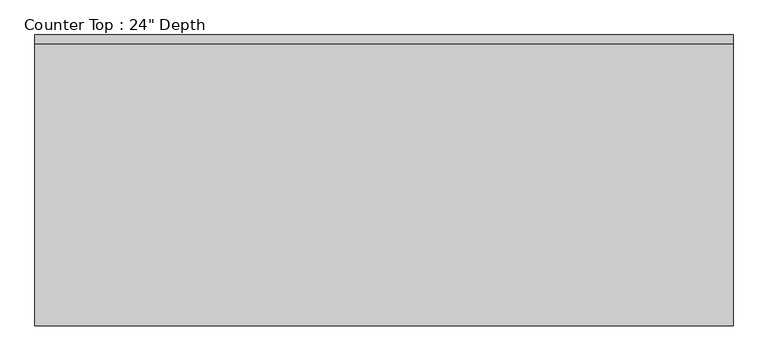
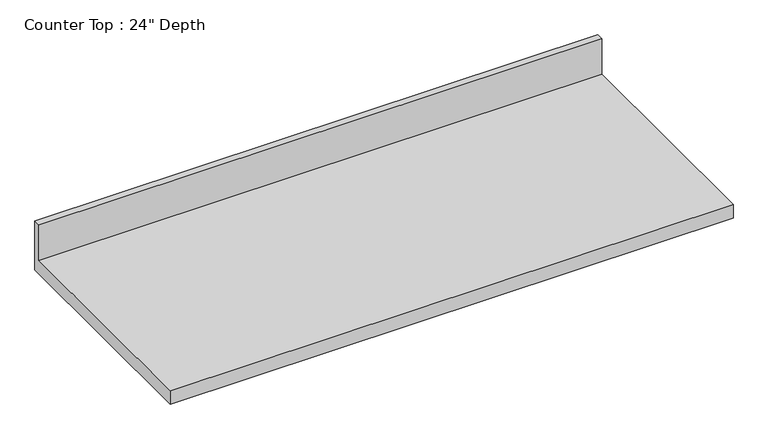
"""IFC4 building model written with IfcOpenShell, lengths in millimetres: furniture geometry."""

from ifc_helpers import new_model, si_unit, frame, origin, place, context, project, spatial, polyline, outline, extrude, source, transform, mapped, element, save


def furniture_b9030999(model_context):
    return source(origin(), model_context, "Body", "SweptSolid", [
        extrude(outline(polyline([(0.0, 1016.0), (0.0, 876.3), (-635.0, 876.3), (-635.0, 914.4), (-19.05, 914.4), (-19.05, 1016.0), (0.0, 1016.0)])), frame((-1200.4622951, 0.0, 0.0), z_axis=(1.0, 0.0, 0.0), x_axis=(0.0, 1.0, 0.0)), (0.0, 0.0, 1.0), 1524.0),
    ])


if __name__ == "__main__":
    model = new_model("IFC4")
    model_context = context("Model", 3, world=origin())
    ifc_project = project(units=[si_unit("LENGTHUNIT", "METRE", prefix="MILLI")], contexts=[model_context])
    site = spatial("IfcSite", under=ifc_project)
    building = spatial("IfcBuilding", under=site)
    placement = place(None, origin())
    furniture_shape = furniture_b9030999(model_context)
    element("IfcFurniture", 1, ObjectType="Counter Top : 24\" Depth", at=placement, inside=building, context=model_context, shape_type="MappedRepresentation", body=[
        mapped(furniture_shape, transform((0.0, 0.0, 0.0), x_axis=(1.0, 0.0, 0.0), y_axis=(0.0, 1.0, 0.0), z_axis=(0.0, 0.0, 1.0))),
    ])
    save(model, "model.ifc")
